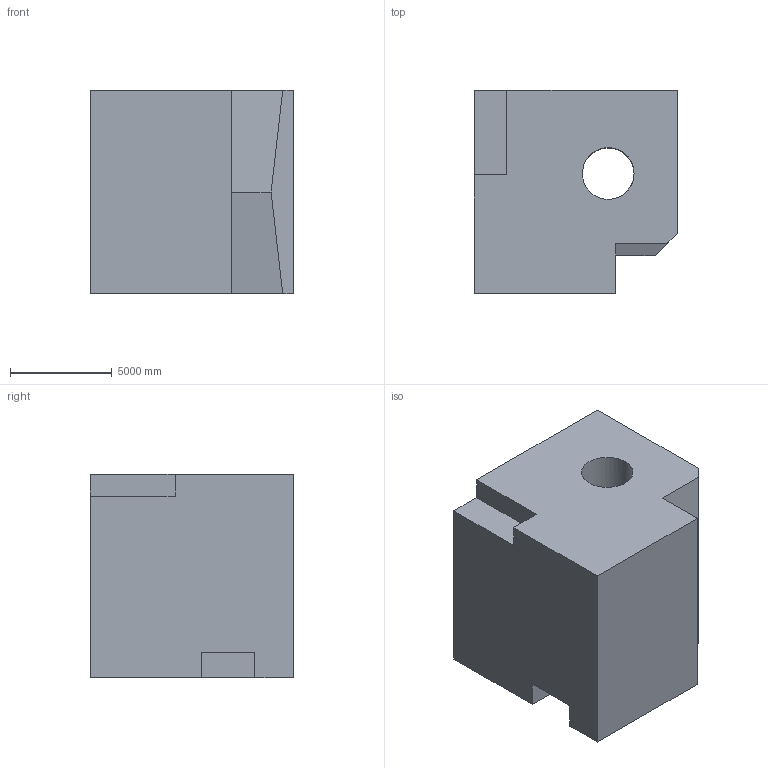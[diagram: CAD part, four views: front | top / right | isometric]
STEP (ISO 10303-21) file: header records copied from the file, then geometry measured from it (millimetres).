
FILE_DESCRIPTION (( 'STEP AP203' ), '1' );
FILE_NAME ('613.STEP', '2022-07-29T12:05:54', ( 'user' ), ( '' ), 'SwSTEP 2.0', 'SolidWorks 2021', '' );
FILE_SCHEMA (( 'CONFIG_CONTROL_DESIGN' ));
Length unit declared in the file: centimetre
Products named in the file (1): 613
Bounding box: 10000 x 10000 x 10000 mm (x, y, z)
Volume: 821282553896.8 mm3; surface area: 695068656.5 mm2
Topology: 1 solids, 1 shells, 27 faces, 78 edges, 52 vertices
Faces by surface type: plane 20, cylinder 7
Entity records: 1437 total; most frequent: CARTESIAN_POINT 638, ORIENTED_EDGE 156, DIRECTION 140, EDGE_CURVE 78, VECTOR 60, LINE 60, VERTEX_POINT 52, AXIS2_PLACEMENT_3D 40
